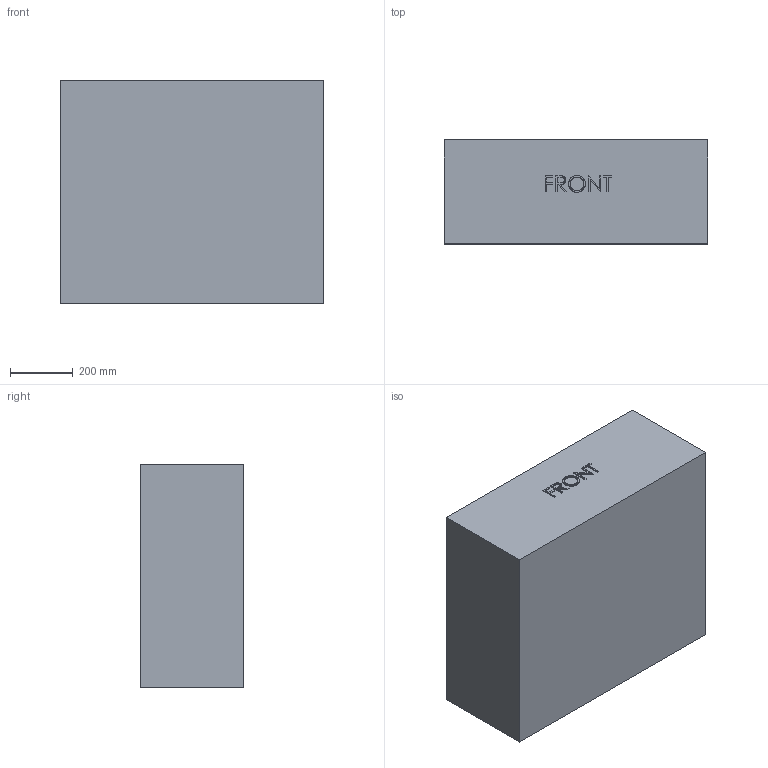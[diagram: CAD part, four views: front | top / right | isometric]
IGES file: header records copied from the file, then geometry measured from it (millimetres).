
Start section: SolidWorks IGES file using analytic representation for surfaces
Global section: file name: C:\working\1690 OEM BOTTOM.IGS; native system: SolidWorks 2006 by SolidWorks Corporation; preprocessor: SolidWorks 2006 by SolidWorks Corporation; author: shuerta; date: 070309.130335; units: inch
Bounding box: 835.91 x 330.2 x 711.45 mm (x, y, z)
Surface area: 3024067.1 mm2 (no closed solid volume)
Topology: 0 solids, 0 shells, 397 faces, 3886 edges, 3879 vertices
Faces by surface type: bspline 293, revolution 104
